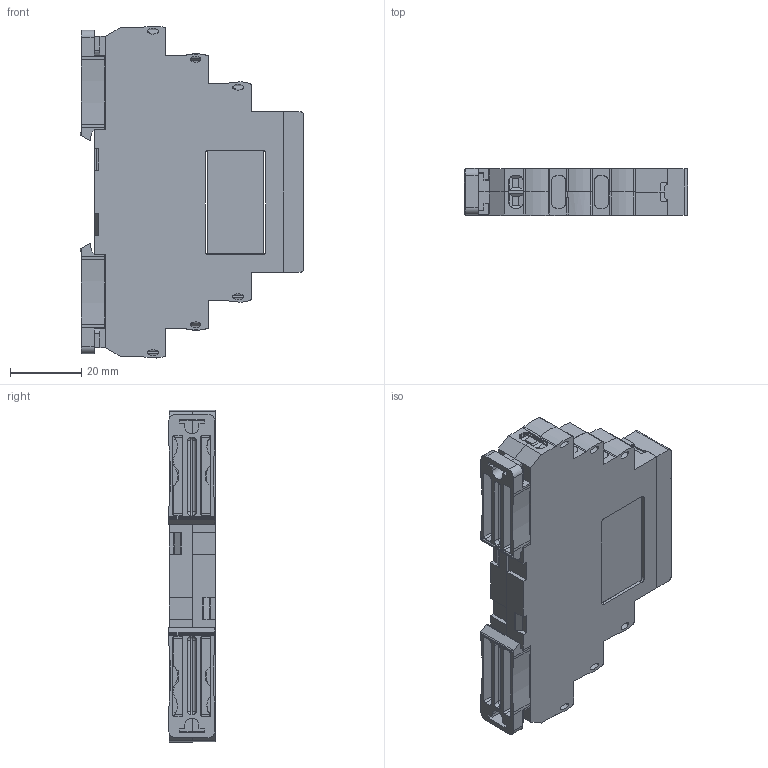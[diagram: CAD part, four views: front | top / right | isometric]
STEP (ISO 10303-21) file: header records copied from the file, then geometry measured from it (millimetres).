
FILE_DESCRIPTION(('STEP AP203'), '1');
FILE_NAME('ﾌﾐﾏ-2ﾌ-1', '', ('UNSPECIFIED'), ('UNSPECIFIED'), 'ASCON STEP Converter 1.6', 'ASCON Math Kernel', '');
FILE_SCHEMA(('CONFIG_CONTROL_DESIGN'));
Length unit declared in the file: millimetre
Products named in the file (18): Case13-18-23mm_3step_Half_v01b____1_6.5mm; Case13-18-23mm_3step_plug_v01____1_13mm; Case13-18-23mm_2step_Lock_v01a_Build20140909_1552; DG127-5.08-02P-4Y-00AH; Case13_Face
Assembly tree (26 placements, depth 2):
  (unnamed)
    Case13-18-23mm_3step_Half_v01b____1_6.5mm
    Case13-18-23mm_3step_Half_v01b____1_6.5mm
    Case13-18-23mm_3step_plug_v01____1_13mm  x4
    Case13-18-23mm_2step_Lock_v01a_Build20140909_1552  x2
    DG127-5.08-02P-4Y-00AH  x6
    (unnamed)
    Case13_Face
    (unnamed)
    (unnamed)
    (unnamed)
    (unnamed)
    (unnamed)
    (unnamed)
    (unnamed)
    (unnamed)
    (unnamed)
    (unnamed)
Bounding box: 62.85 x 13.1 x 93.33 mm (x, y, z)
Volume: 23986.8 mm3; surface area: 35675.5 mm2
Topology: 235 solids, 235 shells, 12090 faces, 34040 edges, 22619 vertices
Faces by surface type: plane 8801, extrusion 1952, bspline 942, cylinder 358, torus 29, sphere 8
Full cylindrical faces by diameter (mm): 2.1 x1, 2.2 x1, 3.5 x12, 3.7 x12
Entity records: 420330 total; most frequent: CARTESIAN_POINT 94185, ORIENTED_EDGE 57096, DIRECTION 42548, EDGE_CURVE 28548, VECTOR 25528, LINE 23576, VERTEX_POINT 18993, EDGE_LOOP 10291
